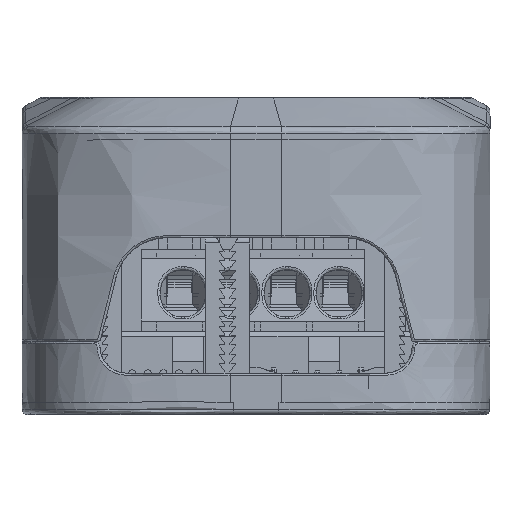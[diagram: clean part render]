
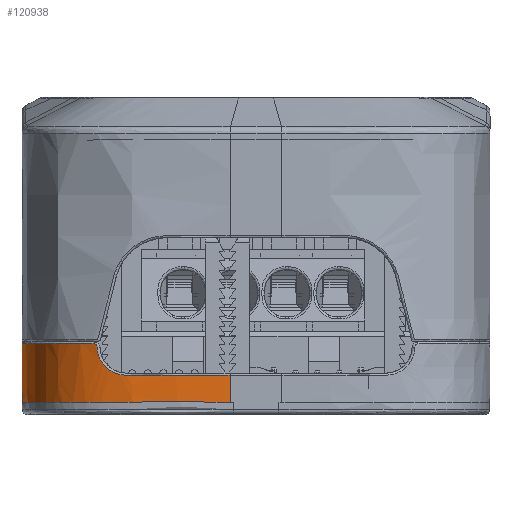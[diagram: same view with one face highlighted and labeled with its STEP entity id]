
A CAD part, left-side view. The second image highlights one B-rep face of the part: STEP entity #120938.
In plain terms, the highlighted face is a extrusion surface.
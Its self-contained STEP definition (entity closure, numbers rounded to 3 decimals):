
#65156=CARTESIAN_POINT('',(-276.,409.426,
-6.438));
#83493=CARTESIAN_POINT('',(-275.465,419.462,
-3.838));
#83494=CARTESIAN_POINT('',(-275.417,419.731,
-3.838));
#83495=CARTESIAN_POINT('',(-275.31,420.272,
-3.759));
#83496=CARTESIAN_POINT('',(-275.128,421.024,
-3.399));
#83497=CARTESIAN_POINT('',(-274.952,421.637,
-2.849));
#83498=CARTESIAN_POINT('',(-274.795,422.11,
-1.997));
#83499=CARTESIAN_POINT('',(-274.765,422.193,
-1.42));
#83500=CARTESIAN_POINT('',(-274.765,422.193,
-1.138));
#83507=CARTESIAN_POINT('',(-276.,409.426,
-3.838));
#83508=CARTESIAN_POINT('',(-276.,410.986,
-3.838));
#83509=CARTESIAN_POINT('',(-275.999,414.335,
-3.838));
#83510=CARTESIAN_POINT('',(-275.774,417.607,
-3.838));
#83511=CARTESIAN_POINT('',(-275.498,419.273,
-3.838));
#83512=CARTESIAN_POINT('',(-275.465,419.462,
-3.838));
#83514=CARTESIAN_POINT('',(-275.465,419.462,
-3.838));
#83519=DIRECTION('',(0.,0.,-1.));
#83520=VECTOR('',#83519,2.6);
#83521=CARTESIAN_POINT('',(-276.,409.426,
-3.838));
#83522=LINE('',#83521,#83520);
#83523=DIRECTION('',(0.,0.002,1.));
#83524=VECTOR('',#83523,0.8);
#83525=CARTESIAN_POINT('',(-258.65,429.421,
-6.438));
#83526=LINE('',#83525,#83524);
#83527=CARTESIAN_POINT('',(-258.65,429.422,
-5.638));
#83528=CARTESIAN_POINT('',(-258.358,429.422,
-5.638));
#83529=CARTESIAN_POINT('',(-257.773,429.429,
-5.638));
#83530=CARTESIAN_POINT('',(-256.889,429.426,
-5.638));
#83531=CARTESIAN_POINT('',(-256.297,429.426,
-5.638));
#83532=CARTESIAN_POINT('',(-256.,429.426,
-5.638));
#83534=DIRECTION('',(0.,0.,1.));
#83535=VECTOR('',#83534,4.038);
#83536=CARTESIAN_POINT('',(-256.,429.426,
-5.638));
#83537=LINE('',#83536,#83535);
#83538=CARTESIAN_POINT('',(-256.,429.426,-1.6));
#83539=CARTESIAN_POINT('',(-256.668,429.426,-1.6));
#83540=CARTESIAN_POINT('',(-257.337,429.426,
-1.6));
#83541=CARTESIAN_POINT('',(-258.,429.423,
-1.6));
#83543=CARTESIAN_POINT('',(-258.,429.423,
-1.6));
#83544=CARTESIAN_POINT('',(-258.056,429.422,
-1.544));
#83545=CARTESIAN_POINT('',(-258.167,429.42,
-1.433));
#83546=CARTESIAN_POINT('',(-258.334,429.422,
-1.266));
#83547=CARTESIAN_POINT('',(-258.445,429.42,
-1.155));
#83548=CARTESIAN_POINT('',(-258.5,429.419,
-1.1));
#83550=DIRECTION('',(0.,0.,1.));
#83551=VECTOR('',#83550,0.262);
#83552=CARTESIAN_POINT('',(-258.5,429.419,
-1.1));
#83553=LINE('',#83552,#83551);
#83554=CARTESIAN_POINT('',(-274.653,422.498,
-0.838));
#83555=CARTESIAN_POINT('',(-274.712,422.342,
-0.838));
#83556=CARTESIAN_POINT('',(-274.765,422.193,
-0.977));
#83557=CARTESIAN_POINT('',(-274.765,422.193,
-1.138));
#83576=CARTESIAN_POINT('',(-258.65,429.421,
-6.438));
#83577=CARTESIAN_POINT('',(-259.313,429.414,
-6.438));
#83578=CARTESIAN_POINT('',(-261.719,429.366,
-6.438));
#83579=CARTESIAN_POINT('',(-265.604,429.103,
-6.438));
#83580=CARTESIAN_POINT('',(-269.656,428.068,
-6.438));
#83581=CARTESIAN_POINT('',(-272.675,426.102,
-6.438));
#83582=CARTESIAN_POINT('',(-274.183,423.787,
-6.438));
#83583=CARTESIAN_POINT('',(-274.773,422.188,
-6.438));
#83584=CARTESIAN_POINT('',(-274.896,421.804,
-6.438));
#83586=CARTESIAN_POINT('',(-274.896,421.804,
-6.438));
#83587=CARTESIAN_POINT('',(-275.223,420.785,
-6.435));
#83588=CARTESIAN_POINT('',(-275.708,418.483,
-6.43));
#83589=CARTESIAN_POINT('',(-275.995,414.328,
-6.401));
#83590=CARTESIAN_POINT('',(-276.,411.092,
-6.422));
#83591=CARTESIAN_POINT('',(-276.,409.426,
-6.438));
#83713=CARTESIAN_POINT('',(-274.653,422.498,
-0.838));
#83714=CARTESIAN_POINT('',(-274.599,422.638,
-0.838));
#83715=CARTESIAN_POINT('',(-274.062,423.974,
-0.838));
#83716=CARTESIAN_POINT('',(-272.675,426.102,
-0.838));
#83717=CARTESIAN_POINT('',(-269.656,428.068,
-0.838));
#83718=CARTESIAN_POINT('',(-265.604,429.102,
-0.838));
#83719=CARTESIAN_POINT('',(-261.673,429.373,
-0.838));
#83720=CARTESIAN_POINT('',(-259.215,429.413,
-0.838));
#83721=CARTESIAN_POINT('',(-258.5,429.419,
-0.838));
#85735=CARTESIAN_POINT('',(-256.,429.426,-1.6));
#85736=VERTEX_POINT('',#85735);
#85737=CARTESIAN_POINT('',(-256.,429.426,
-5.638));
#85738=VERTEX_POINT('',#85737);
#85739=VERTEX_POINT('',#83527);
#85740=CARTESIAN_POINT('',(-258.65,429.421,
-6.438));
#85741=VERTEX_POINT('',#85740);
#85888=CARTESIAN_POINT('',(-276.,409.426,
-3.838));
#85890=VERTEX_POINT('',#85888);
#85896=VERTEX_POINT('',#65156);
#85974=VERTEX_POINT('',#83514);
#85975=VERTEX_POINT('',#83500);
#85976=VERTEX_POINT('',#83586);
#85977=VERTEX_POINT('',#83541);
#85978=VERTEX_POINT('',#83548);
#85979=CARTESIAN_POINT('',(-258.5,429.419,
-0.838));
#85980=VERTEX_POINT('',#85979);
#85981=VERTEX_POINT('',#83713);
#120899=CARTESIAN_POINT('',(-255.654,429.426,
-54.222));
#120900=CARTESIAN_POINT('',(-255.769,429.426,
-54.222));
#120901=CARTESIAN_POINT('',(-257.445,429.426,
-54.222));
#120902=CARTESIAN_POINT('',(-260.909,429.426,
-54.222));
#120903=CARTESIAN_POINT('',(-265.604,429.102,
-54.222));
#120904=CARTESIAN_POINT('',(-269.656,428.068,
-54.222));
#120905=CARTESIAN_POINT('',(-272.675,426.102,
-54.222));
#120906=CARTESIAN_POINT('',(-274.642,423.083,
-54.222));
#120907=CARTESIAN_POINT('',(-275.676,419.031,
-54.222));
#120908=CARTESIAN_POINT('',(-275.999,414.335,
-54.222));
#120909=CARTESIAN_POINT('',(-276.,410.871,
-54.222));
#120910=CARTESIAN_POINT('',(-276.,409.196,
-54.222));
#120911=CARTESIAN_POINT('',(-276.,409.081,
-54.222));
#120913=DIRECTION('',(0.,0.,1.));
#120914=VECTOR('',#120913,1.);
#120915=SURFACE_OF_LINEAR_EXTRUSION('',#120912,#120914);
#120916=ORIENTED_EDGE('',*,*,#120893,.F.);
#120917=ORIENTED_EDGE('',*,*,#94167,.T.);
#120919=ORIENTED_EDGE('',*,*,#120918,.F.);
#120921=ORIENTED_EDGE('',*,*,#120920,.F.);
#120922=ORIENTED_EDGE('',*,*,#92259,.T.);
#120923=ORIENTED_EDGE('',*,*,#92257,.T.);
#120924=ORIENTED_EDGE('',*,*,#92255,.T.);
#120926=ORIENTED_EDGE('',*,*,#120925,.T.);
#120928=ORIENTED_EDGE('',*,*,#120927,.T.);
#120930=ORIENTED_EDGE('',*,*,#120929,.T.);
#120932=ORIENTED_EDGE('',*,*,#120931,.F.);
#120934=ORIENTED_EDGE('',*,*,#120933,.T.);
#120935=ORIENTED_EDGE('',*,*,#120847,.F.);
#120936=EDGE_LOOP('',(#120916,#120917,#120919,#120921,#120922,#120923,#120924,
#120926,#120928,#120930,#120932,#120934,#120935));
#120937=FACE_OUTER_BOUND('',#120936,.F.);
#83501=B_SPLINE_CURVE_WITH_KNOTS('',3,(#83493,#83494,#83495,#83496,#83497,
#83498,#83499,#83500),.UNSPECIFIED.,.F.,.F.,(4,1,1,1,1,4),(0.,0.2,0.4,
0.6,0.8,1.),.UNSPECIFIED.);
#83513=B_SPLINE_CURVE_WITH_KNOTS('',3,(#83507,#83508,#83509,#83510,#83511,
#83512),.UNSPECIFIED.,.F.,.F.,(4,1,1,4),(0.,0.435,
0.935,1.),.UNSPECIFIED.);
#83533=B_SPLINE_CURVE_WITH_KNOTS('',3,(#83527,#83528,#83529,#83530,#83531,
#83532),.UNSPECIFIED.,.F.,.F.,(4,1,1,4),(0.,0.333,
0.667,1.),.UNSPECIFIED.);
#83542=B_SPLINE_CURVE_WITH_KNOTS('',3,(#83538,#83539,#83540,#83541),
.UNSPECIFIED.,.F.,.F.,(4,4),(0.,1.),.UNSPECIFIED.);
#83549=B_SPLINE_CURVE_WITH_KNOTS('',3,(#83543,#83544,#83545,#83546,#83547,
#83548),.UNSPECIFIED.,.F.,.F.,(4,1,1,4),(0.,0.333,
0.667,1.),.UNSPECIFIED.);
#83558=B_SPLINE_CURVE_WITH_KNOTS('',3,(#83554,#83555,#83556,#83557),
.UNSPECIFIED.,.F.,.F.,(4,4),(0.,1.),.UNSPECIFIED.);
#83585=B_SPLINE_CURVE_WITH_KNOTS('',3,(#83576,#83577,#83578,#83579,#83580,
#83581,#83582,#83583,#83584),.UNSPECIFIED.,.F.,.F.,(4,1,1,1,1,1,4),(0.,
0.08,0.294,0.508,0.722,
0.936,1.),.UNSPECIFIED.);
#83592=B_SPLINE_CURVE_WITH_KNOTS('',3,(#83586,#83587,#83588,#83589,#83590,
#83591),.UNSPECIFIED.,.F.,.F.,(4,1,1,4),(0.,0.333,
0.667,1.),.UNSPECIFIED.);
#83722=B_SPLINE_CURVE_WITH_KNOTS('',3,(#83713,#83714,#83715,#83716,#83717,
#83718,#83719,#83720,#83721),.UNSPECIFIED.,.F.,.F.,(4,1,1,1,1,1,4),(0.,
0.025,0.247,0.468,0.689,
0.911,1.),.UNSPECIFIED.);
#92255=EDGE_CURVE('',#85738,#85736,#83537,.T.);
#92257=EDGE_CURVE('',#85739,#85738,#83533,.T.);
#92259=EDGE_CURVE('',#85741,#85739,#83526,.T.);
#94167=EDGE_CURVE('',#85890,#85896,#83522,.T.);
#120847=EDGE_CURVE('',#85974,#85975,#83501,.T.);
#120893=EDGE_CURVE('',#85890,#85974,#83513,.T.);
#120912=B_SPLINE_CURVE_WITH_KNOTS('',3,(#120899,#120900,#120901,#120902,#120903,
#120904,#120905,#120906,#120907,#120908,#120909,#120910,#120911),.UNSPECIFIED.,
.F.,.F.,(4,1,1,1,1,1,1,1,1,1,4),(0.,0.008,0.119,
0.246,0.373,0.5,0.627,
0.754,0.881,0.992,1.),.UNSPECIFIED.);
#120918=EDGE_CURVE('',#85976,#85896,#83592,.T.);
#120920=EDGE_CURVE('',#85741,#85976,#83585,.T.);
#120925=EDGE_CURVE('',#85736,#85977,#83542,.T.);
#120927=EDGE_CURVE('',#85977,#85978,#83549,.T.);
#120929=EDGE_CURVE('',#85978,#85980,#83553,.T.);
#120931=EDGE_CURVE('',#85981,#85980,#83722,.T.);
#120933=EDGE_CURVE('',#85981,#85975,#83558,.T.);
#120938=ADVANCED_FACE('',(#120937),#120915,.T.);
